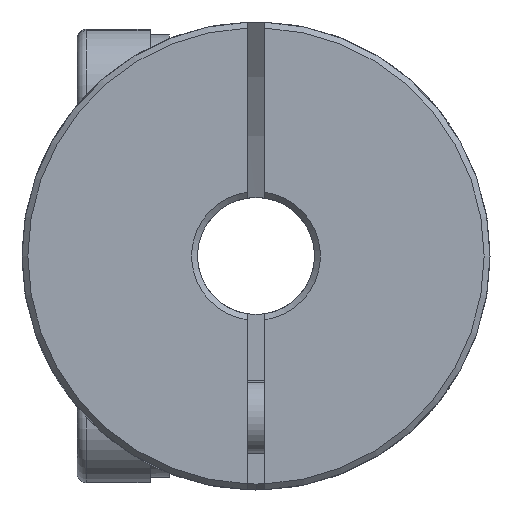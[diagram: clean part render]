
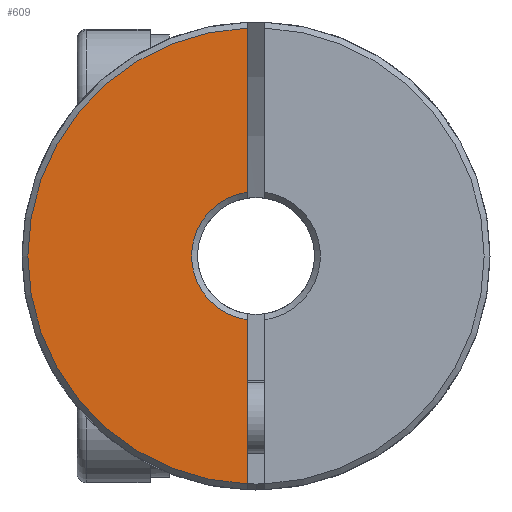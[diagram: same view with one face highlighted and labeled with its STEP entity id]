
A CAD part, front view. The second image highlights one B-rep face of the part: STEP entity #609.
In plain terms, the highlighted planar face has unit normal (0, -1, 0).
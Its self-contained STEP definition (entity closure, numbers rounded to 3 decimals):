
#441 = EDGE_CURVE ( 'NONE', #6948, #4949, #2559, .T. ) ;
#480 = DIRECTION ( 'NONE',  ( 0., 0., 1. ) ) ;
#511 = AXIS2_PLACEMENT_3D ( 'NONE', #5741, #6358, #2237 ) ;
#609 = ADVANCED_FACE ( 'NONE', ( #4201 ), #5154, .F. ) ;
#946 = CARTESIAN_POINT ( 'NONE',  ( -0.3, -15.02, -7.794 ) ) ;
#1005 = ORIENTED_EDGE ( 'NONE', *, *, #441, .F. ) ;
#1216 = CARTESIAN_POINT ( 'NONE',  ( -0.3, -15.02, -2.179 ) ) ;
#1252 = EDGE_LOOP ( 'NONE', ( #1005, #5418, #2936, #5639 ) ) ;
#1566 = VERTEX_POINT ( 'NONE', #1216 ) ;
#1813 = CARTESIAN_POINT ( 'NONE',  ( 0., -15.02, 0. ) ) ;
#1817 = VERTEX_POINT ( 'NONE', #946 ) ;
#1869 = LINE ( 'NONE', #5773, #5934 ) ;
#2237 = DIRECTION ( 'NONE',  ( 0., 0., 1. ) ) ;
#2336 = DIRECTION ( 'NONE',  ( 0., 0., -1. ) ) ;
#2503 = EDGE_CURVE ( 'NONE', #1566, #4949, #4001, .T. ) ;
#2559 = LINE ( 'NONE', #7228, #5332 ) ;
#2936 = ORIENTED_EDGE ( 'NONE', *, *, #3391, .F. ) ;
#2995 = AXIS2_PLACEMENT_3D ( 'NONE', #3932, #6938, #480 ) ;
#3158 = EDGE_CURVE ( 'NONE', #6948, #1817, #5387, .T. ) ;
#3391 = EDGE_CURVE ( 'NONE', #1566, #1817, #1869, .T. ) ;
#3552 = DIRECTION ( 'NONE',  ( 0., 0., 1. ) ) ;
#3578 = DIRECTION ( 'NONE',  ( 0., -1., 0. ) ) ;
#3714 = AXIS2_PLACEMENT_3D ( 'NONE', #1813, #3578, #3552 ) ;
#3932 = CARTESIAN_POINT ( 'NONE',  ( 0., -15.02, 0. ) ) ;
#4001 = CIRCLE ( 'NONE', #511, 2.2 ) ;
#4201 = FACE_OUTER_BOUND ( 'NONE', #1252, .T. ) ;
#4949 = VERTEX_POINT ( 'NONE', #7283 ) ;
#5154 = PLANE ( 'NONE',  #2995 ) ;
#5332 = VECTOR ( 'NONE', #6682, 1000. ) ;
#5387 = CIRCLE ( 'NONE', #3714, 7.8 ) ;
#5418 = ORIENTED_EDGE ( 'NONE', *, *, #3158, .T. ) ;
#5639 = ORIENTED_EDGE ( 'NONE', *, *, #2503, .T. ) ;
#5741 = CARTESIAN_POINT ( 'NONE',  ( 0., -15.02, 0. ) ) ;
#5773 = CARTESIAN_POINT ( 'NONE',  ( -0.3, -15.02, 0. ) ) ;
#5934 = VECTOR ( 'NONE', #2336, 1000. ) ;
#6358 = DIRECTION ( 'NONE',  ( 0., 1., 0. ) ) ;
#6563 = CARTESIAN_POINT ( 'NONE',  ( -0.3, -15.02, 7.794 ) ) ;
#6682 = DIRECTION ( 'NONE',  ( 0., 0., -1. ) ) ;
#6938 = DIRECTION ( 'NONE',  ( 0., 1., 0. ) ) ;
#6948 = VERTEX_POINT ( 'NONE', #6563 ) ;
#7228 = CARTESIAN_POINT ( 'NONE',  ( -0.3, -15.02, 0. ) ) ;
#7283 = CARTESIAN_POINT ( 'NONE',  ( -0.3, -15.02, 2.179 ) ) ;
